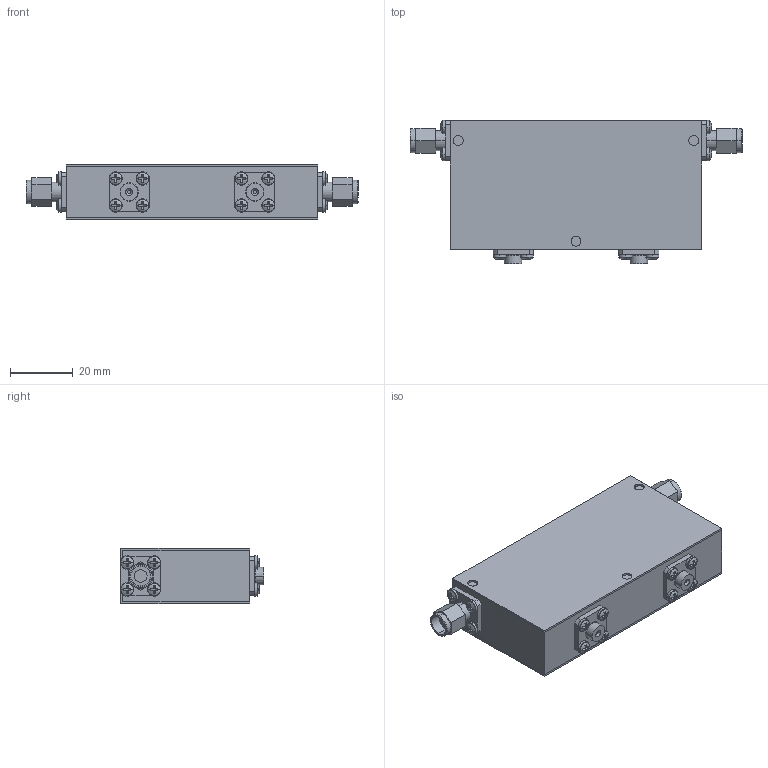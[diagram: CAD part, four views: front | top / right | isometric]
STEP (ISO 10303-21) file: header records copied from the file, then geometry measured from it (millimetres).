
FILE_DESCRIPTION (( 'STEP AP214' ), '1' );
FILE_NAME ('Package 17 Iso MM.step', '2021-12-01T20:58:53', ( '' ), ( '' ), 'SwSTEP 2.0', 'SolidWorks 2016', '' );
FILE_SCHEMA (( 'AUTOMOTIVE_DESIGN' ));
Length unit declared in the file: inch
Products named in the file (6): Package 17 Iso MM; Delta SMA-Male; pan cross head_ai_CR-PHMS 0.086-56x0.125x0.125-N; Package Size 17; 030013-1A Same Base thickness as connectors; Package 17
Assembly tree (22 placements, depth 2):
  Package 17 Iso MM
    Package 17
    pan cross head_ai_CR-PHMS 0.086-56x0.125x0.125-N  x16
    030013-1A Same Base thickness as connectors  x2
    Delta SMA-Male  x2
    Package Size 17
Bounding box: 106.02 x 45.68 x 17.78 mm (x, y, z)
Volume: 60720.9 mm3; surface area: 30362.1 mm2
Topology: 22 solids, 22 shells, 554 faces, 1260 edges, 776 vertices
Faces by surface type: plane 314, cylinder 152, torus 48, sphere 32, cone 8
Entity records: 4324 total; most frequent: DIRECTION 784, CARTESIAN_POINT 673, ORIENTED_EDGE 632, EDGE_CURVE 316, AXIS2_PLACEMENT_3D 313, VERTEX_POINT 202, EDGE_LOOP 168, VECTOR 158
